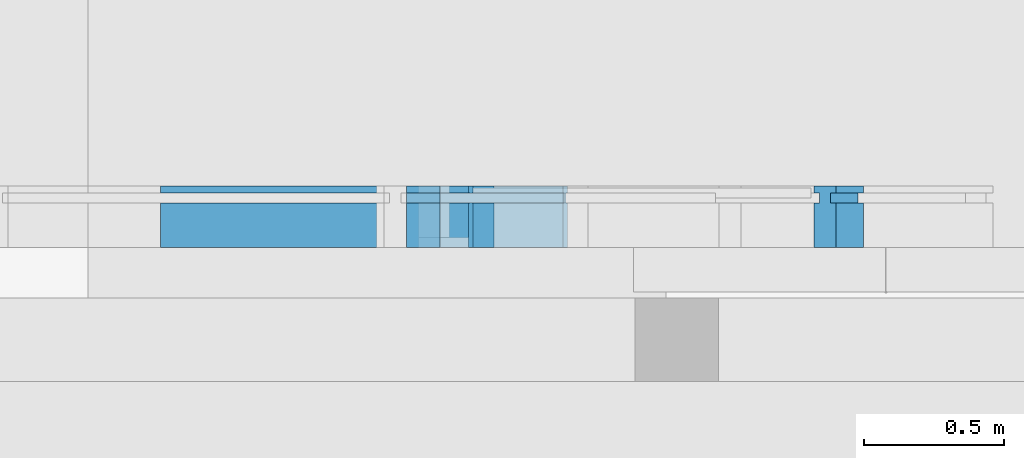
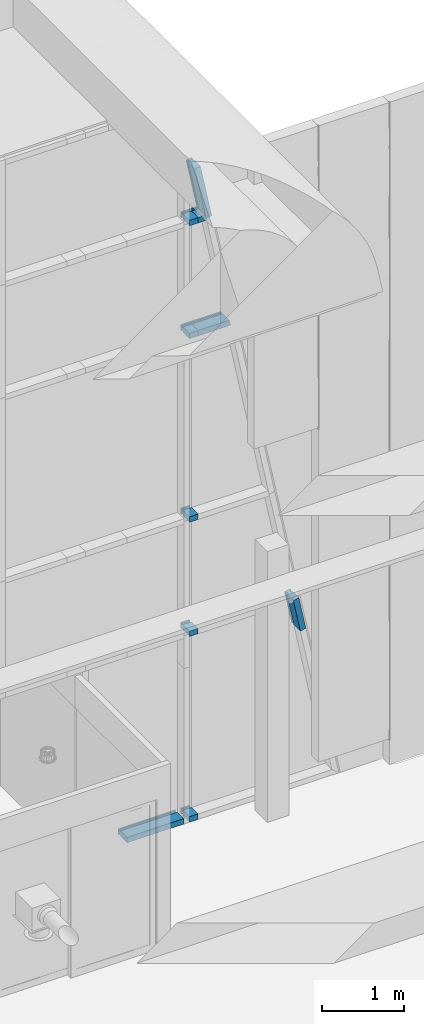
# One storey, part 193 of 302: 10 members, 1 element without a shape of its own.
"""IFC2X3 building model written with IfcOpenShell, lengths in metres."""

from ifc_helpers import new_model, entity, si_unit, converted_unit, derived_unit, direction, frame, origin, place, context, subcontext, project, spatial, polyline, outline, extrude, clip, bounded_halfspace, source, transform, mapped, material, type_object, type_shapes, element, aggregate, save


model = new_model("IFC2X3")

# Units and contexts
model_context = context("Model", 3, precision=1e-05, world=origin(), true_north=direction((6.12303176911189e-17, 1.0)))
body_context = subcontext(model_context, "Body", "Model", "MODEL_VIEW")
ifc_project = project(units=[si_unit("LENGTHUNIT", "METRE"), si_unit("AREAUNIT", "SQUARE_METRE"), si_unit("VOLUMEUNIT", "CUBIC_METRE"), converted_unit("PLANEANGLEUNIT", "DEGREE", entity("IfcRatioMeasure", 0.0174532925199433), si_unit("PLANEANGLEUNIT", "RADIAN"), dimensions=[0, 0, 0, 0, 0, 0, 0]), si_unit("MASSUNIT", "GRAM", prefix="KILO"), derived_unit("MASSDENSITYUNIT", [(si_unit("MASSUNIT", "GRAM", prefix="KILO"), 1), (si_unit("LENGTHUNIT", "METRE"), -3)]), derived_unit("MOMENTOFINERTIAUNIT", [(si_unit("LENGTHUNIT", "METRE"), 4)]), si_unit("TIMEUNIT", "SECOND"), si_unit("FREQUENCYUNIT", "HERTZ"), si_unit("THERMODYNAMICTEMPERATUREUNIT", "DEGREE_CELSIUS"), derived_unit("THERMALTRANSMITTANCEUNIT", [(si_unit("MASSUNIT", "GRAM", prefix="KILO"), 1), (si_unit("THERMODYNAMICTEMPERATUREUNIT", "KELVIN"), -1), (si_unit("TIMEUNIT", "SECOND"), -3)]), derived_unit("VOLUMETRICFLOWRATEUNIT", [(si_unit("LENGTHUNIT", "METRE"), 3), (si_unit("TIMEUNIT", "SECOND"), -1)]), si_unit("ELECTRICCURRENTUNIT", "AMPERE"), si_unit("ELECTRICVOLTAGEUNIT", "VOLT"), si_unit("POWERUNIT", "WATT"), si_unit("FORCEUNIT", "NEWTON", prefix="KILO"), si_unit("ILLUMINANCEUNIT", "LUX"), si_unit("LUMINOUSFLUXUNIT", "LUMEN"), si_unit("LUMINOUSINTENSITYUNIT", "CANDELA"), derived_unit("USERDEFINED", [(si_unit("MASSUNIT", "GRAM", prefix="KILO"), -1), (si_unit("LENGTHUNIT", "METRE"), -2), (si_unit("TIMEUNIT", "SECOND"), 3), (si_unit("LUMINOUSFLUXUNIT", "LUMEN"), 1)]), derived_unit("LINEARVELOCITYUNIT", [(si_unit("LENGTHUNIT", "METRE"), 1), (si_unit("TIMEUNIT", "SECOND"), -1)]), si_unit("PRESSUREUNIT", "PASCAL"), derived_unit("USERDEFINED", [(si_unit("LENGTHUNIT", "METRE"), -2), (si_unit("MASSUNIT", "GRAM", prefix="KILO"), 1), (si_unit("TIMEUNIT", "SECOND"), -2)]), derived_unit("LINEARFORCEUNIT", [(si_unit("MASSUNIT", "GRAM", prefix="KILO"), 1), (si_unit("LENGTHUNIT", "METRE"), 1), (si_unit("TIMEUNIT", "SECOND"), -2), (si_unit("LENGTHUNIT", "METRE"), -1)]), derived_unit("PLANARFORCEUNIT", [(si_unit("MASSUNIT", "GRAM", prefix="KILO"), 1), (si_unit("LENGTHUNIT", "METRE"), 1), (si_unit("TIMEUNIT", "SECOND"), -2), (si_unit("LENGTHUNIT", "METRE"), -2)])], contexts=[model_context])

# Site, building, storey
site_placement = place(None, origin())
site = spatial("IfcSite", under=ifc_project, at=site_placement, Name="Default", CompositionType="ELEMENT")
building_placement = place(site_placement, origin())
building = spatial("IfcBuilding", under=site, at=building_placement, CompositionType="ELEMENT")
storey_placement = place(building_placement, frame((0.0, 0.0, -1.3)))
storey = spatial("IfcBuildingStorey", under=building, at=storey_placement, Name="00_EG", CompositionType="ELEMENT", Elevation=-1.3)

# Curtain wall, members
curtain_wall_type = type_object("IfcCurtainWallType", Name="Fassade:Glasfassade", PredefinedType="NOTDEFINED")
curtain_wall_placement = place(storey_placement, frame((0.0, 0.0, 1.3)))
curtain_wall = element("IfcCurtainWall", 1, at=curtain_wall_placement, inside=storey, type_object=curtain_wall_type, Name="Fassade:Glasfassade", ObjectType="Fassade:Glasfassade")
ifc_material = material(Name="Prepainted_Steel-ArcelorMittal_Construction_HAIRULTRA-35-CORAL-4309-[RAL_3000]")
member_type_1 = type_object("IfcMemberType", Name="Rectangular Mullion:Fassadenrahmen Typ 1", PredefinedType="MULLION", material=ifc_material)
shared_shape_1 = source(origin(), body_context, "Body", "SweptSolid", [
    extrude(outline(polyline([(-0.065, -0.04), (-0.04, -0.04), (-0.04, -0.02), (-0.00499999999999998, -0.02), (-0.00499999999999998, -0.04), (0.155, -0.04), (0.155, 0.04), (-0.00499999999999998, 0.04), (-0.00499999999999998, 0.02), (-0.04, 0.02), (-0.04, 0.04), (-0.065, 0.04), (-0.065, -0.04)])), frame((-0.04, 0.155, -0.499754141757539), z_axis=(0.0, 0.0, 1.0), x_axis=(0.0, -1.0, 0.0)), (0.0, 0.0, 1.0), 0.499754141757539),
])
type_shapes(member_type_1, [shared_shape_1])
member_1_placement = place(storey_placement, frame((-226.789829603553, 45.738088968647, 4.06999999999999), z_axis=(-0.196608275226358, 0.0, 0.980482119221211), x_axis=(0.980482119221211, 0.0, 0.196608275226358)))
member_1 = element("IfcMember", 2, at=member_1_placement, type_object=member_type_1, material=ifc_material, Name="Rectangular Mullion:Fassadenrahmen Typ 1", ObjectType="Rectangular Mullion:Fassadenrahmen Typ 1", context=body_context, shape_type="MappedRepresentation", body=[
    mapped(shared_shape_1, transform((0.0, 0.0, 0.0), scale=1.0)),
])
member_type_2 = type_object("IfcMemberType", Name="Rectangular Mullion:Fassadenrahmen Typ 1", PredefinedType="MULLION", material=ifc_material)
shared_shape_2 = source(origin(), body_context, "Body", "SweptSolid", [
    extrude(outline(polyline([(-0.065, -0.04), (-0.04, -0.04), (-0.04, -0.02), (-0.00499999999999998, -0.02), (-0.00499999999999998, -0.04), (0.155, -0.04), (0.155, 0.04), (-0.00499999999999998, 0.04), (-0.00499999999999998, 0.02), (-0.04, 0.02), (-0.04, 0.04), (-0.065, 0.04), (-0.065, -0.04)])), frame((-0.04, 0.155, -0.810339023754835), z_axis=(0.0, 0.0, 1.0), x_axis=(0.0, -1.0, 0.0)), (0.0, 0.0, 1.0), 0.810339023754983),
])
type_shapes(member_type_2, [shared_shape_2])
member_2_placement = place(storey_placement, frame((-228.174338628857, 45.738088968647, 10.9745229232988), z_axis=(-0.196608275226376, 0.0, 0.980482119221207), x_axis=(0.980482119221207, 0.0, 0.196608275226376)))
member_2 = element("IfcMember", 3, at=member_2_placement, type_object=member_type_2, material=ifc_material, Name="Rectangular Mullion:Fassadenrahmen Typ 1", ObjectType="Rectangular Mullion:Fassadenrahmen Typ 1", context=body_context, shape_type="MappedRepresentation", body=[
    mapped(shared_shape_2, transform((0.0, 0.0, 0.0), scale=1.0)),
])
member_type_3 = type_object("IfcMemberType", Name="Rectangular Mullion:Fassadenrahmen Typ 1", PredefinedType="MULLION", material=ifc_material)
shared_shape_3 = source(origin(), body_context, "Body", "SweptSolid", [
    extrude(outline(polyline([(-0.0649999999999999, -0.04), (-0.04, -0.04), (-0.04, -0.02), (-0.00499999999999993, -0.02), (-0.00499999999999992, -0.04), (0.155, -0.0399999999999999), (0.155, 0.0400000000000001), (-0.00499999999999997, 0.04), (-0.00499999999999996, 0.02), (-0.04, 0.02), (-0.04, 0.04), (-0.065, 0.0399999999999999), (-0.0649999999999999, -0.04)])), frame((-0.04, 0.155, -0.800000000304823), z_axis=(0.0, 0.0, 1.0), x_axis=(0.0, -1.0, 0.0)), (0.0, 0.0, 1.0), 0.800000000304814),
])
type_shapes(member_type_3, [shared_shape_3])
member_3_placement = place(storey_placement, frame((-228.4079697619, 45.738088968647, 1.27), z_axis=(1.0, 0.0, 0.0), x_axis=(0.0, 0.0, -1.0)))
member_3 = element("IfcMember", 4, at=member_3_placement, type_object=member_type_3, material=ifc_material, Name="Rectangular Mullion:Fassadenrahmen Typ 1", ObjectType="Rectangular Mullion:Fassadenrahmen Typ 1", context=body_context, shape_type="MappedRepresentation", body=[
    mapped(shared_shape_3, transform((0.0, 0.0, 0.0), scale=1.0)),
])
member_type_4 = type_object("IfcMemberType", Name="Rectangular Mullion:Fassadenrahmen Typ 1", PredefinedType="MULLION", material=ifc_material)
shared_shape_4 = source(origin(), body_context, "Body", "SweptSolid", [
    extrude(outline(polyline([(-0.065, -0.04), (-0.04, -0.04), (-0.04, -0.02), (-0.00499999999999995, -0.02), (-0.00499999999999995, -0.04), (0.155, -0.04), (0.155, 0.04), (-0.00499999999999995, 0.04), (-0.00499999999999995, 0.02), (-0.04, 0.02), (-0.04, 0.04), (-0.065, 0.04), (-0.065, -0.04)])), frame((0.0, 0.155, -0.119999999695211), z_axis=(0.0, 0.0, 1.0), x_axis=(0.0, -1.0, 0.0)), (0.0, 0.0, 1.0), 0.119999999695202),
])
type_shapes(member_type_4, [shared_shape_4])
member_4_placement = place(storey_placement, frame((-228.3279697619, 45.738088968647, 10.18), z_axis=(-1.0, 0.0, 0.0), x_axis=(0.0, 0.0, 1.0)))
member_4 = element("IfcMember", 5, at=member_4_placement, type_object=member_type_4, material=ifc_material, Name="Rectangular Mullion:Fassadenrahmen Typ 1", ObjectType="Rectangular Mullion:Fassadenrahmen Typ 1", context=body_context, shape_type="MappedRepresentation", body=[
    mapped(shared_shape_4, transform((0.0, 0.0, 0.0), scale=1.0)),
])
member_5_placement = place(storey_placement, frame((-228.3279697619, 45.738088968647, 8.49999999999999), z_axis=(-1.0, 0.0, 0.0), x_axis=(0.0, 0.0, 1.0)))
member_5 = element("IfcMember", 6, at=member_5_placement, type_object=member_type_4, material=ifc_material, Name="Rectangular Mullion:Fassadenrahmen Typ 1", ObjectType="Rectangular Mullion:Fassadenrahmen Typ 1", context=body_context, shape_type="MappedRepresentation", body=[
    mapped(shared_shape_4, transform((0.0, 0.0, 0.0), scale=1.0)),
])
member_6_placement = place(storey_placement, frame((-228.3279697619, 45.738088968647, 5.77), z_axis=(-1.0, 0.0, 0.0), x_axis=(0.0, 0.0, 1.0)))
member_6 = element("IfcMember", 7, at=member_6_placement, type_object=member_type_4, material=ifc_material, Name="Rectangular Mullion:Fassadenrahmen Typ 1", ObjectType="Rectangular Mullion:Fassadenrahmen Typ 1", context=body_context, shape_type="MappedRepresentation", body=[
    mapped(shared_shape_4, transform((0.0, 0.0, 0.0), scale=1.0)),
])
member_7_placement = place(storey_placement, frame((-228.3279697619, 45.738088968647, 4.06999999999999), z_axis=(-1.0, 0.0, 0.0), x_axis=(0.0, 0.0, 1.0)))
member_7 = element("IfcMember", 8, at=member_7_placement, type_object=member_type_4, material=ifc_material, Name="Rectangular Mullion:Fassadenrahmen Typ 1", ObjectType="Rectangular Mullion:Fassadenrahmen Typ 1", context=body_context, shape_type="MappedRepresentation", body=[
    mapped(shared_shape_4, transform((0.0, 0.0, 0.0), scale=1.0)),
])
member_type_5 = type_object("IfcMemberType", Name="Rectangular Mullion:Fassadenrahmen Typ 1", PredefinedType="MULLION", material=ifc_material)
shared_shape_5 = source(origin(), body_context, "Body", "SweptSolid", [
    extrude(outline(polyline([(-0.0649999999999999, -0.04), (-0.04, -0.04), (-0.04, -0.02), (-0.00499999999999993, -0.02), (-0.00499999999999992, -0.04), (0.155, -0.0399999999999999), (0.155, 0.0400000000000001), (-0.00499999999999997, 0.04), (-0.00499999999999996, 0.02), (-0.04, 0.02), (-0.04, 0.04), (-0.065, 0.0399999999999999), (-0.0649999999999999, -0.04)])), frame((-0.04, 0.155, -0.119999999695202), z_axis=(0.0, 0.0, 1.0), x_axis=(0.0, -1.0, 0.0)), (0.0, 0.0, 1.0), 0.119999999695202),
])
type_shapes(member_type_5, [shared_shape_5])
member_8_placement = place(storey_placement, frame((-228.207969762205, 45.738088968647, 1.27), z_axis=(1.0, 0.0, 0.0), x_axis=(0.0, 0.0, -1.0)))
member_8 = element("IfcMember", 9, at=member_8_placement, type_object=member_type_5, material=ifc_material, Name="Rectangular Mullion:Fassadenrahmen Typ 1", ObjectType="Rectangular Mullion:Fassadenrahmen Typ 1", context=body_context, shape_type="MappedRepresentation", body=[
    mapped(shared_shape_5, transform((0.0, 0.0, 0.0), scale=1.0)),
])
member_type_6 = type_object("IfcMemberType", Name="Rectangular Mullion:Fassadenrahmen Typ 1", PredefinedType="MULLION", material=ifc_material)
shared_shape_6 = source(origin(), body_context, "Body", "Clipping", [
    clip(clip(extrude(outline(polyline([(-0.065, -0.04), (-0.04, -0.04), (-0.04, -0.02), (-0.00499999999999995, -0.02), (-0.00499999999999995, -0.04), (0.155, -0.04), (0.155, 0.04), (-0.00499999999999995, 0.04), (-0.00499999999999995, 0.02), (-0.04, 0.02), (-0.04, 0.04), (-0.065, 0.04), (-0.065, -0.04)])), frame((0.0, 0.155, -0.456255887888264), z_axis=(0.0, 0.0, 1.0), x_axis=(0.0, -1.0, 0.0)), (0.0, 0.0, 1.0), 0.456255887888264), bounded_halfspace(frame((-0.0157286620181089, 91.44, -0.451388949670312), z_axis=(0.196608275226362, 0.0, -0.98048211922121), x_axis=(-0.98048211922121, 0.0, -0.196608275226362)), False, frame((0.0, 0.155, -0.456255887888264), z_axis=(0.0, 0.0, 1.0), x_axis=(0.0, -1.0, 0.0)), polyline([(0.155, -0.0157286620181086), (0.155, -0.04), (-0.00499999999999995, -0.04), (-0.00499999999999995, -0.02), (-0.04, -0.02), (-0.04, -0.04), (-0.065, -0.04), (-0.0650000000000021, -0.0157286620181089), (0.155, -0.0157286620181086)]))), bounded_halfspace(frame((1.6642713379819, 91.44, -0.114511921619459), z_axis=(0.196608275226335, 0.0, -0.980482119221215), x_axis=(-0.980482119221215, 0.0, -0.196608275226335)), False, frame((0.0, 0.155, -0.456255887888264), z_axis=(0.0, 0.0, 1.0), x_axis=(0.0, -1.0, 0.0)), polyline([(0.155, 0.04), (0.155, -0.0157286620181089), (-0.065, -0.0157286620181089), (-0.065, 0.04), (-0.04, 0.04), (-0.04, 0.02), (-0.00499999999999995, 0.02), (-0.00499999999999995, 0.04), (0.155, 0.04)]))),
])
type_shapes(member_type_6, [shared_shape_6])
member_9_placement = place(storey_placement, frame((-228.207969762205, 45.738088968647, 8.49999999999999), z_axis=(-1.0, 0.0, 0.0), x_axis=(0.0, 0.0, 1.0)))
member_9 = element("IfcMember", 10, at=member_9_placement, type_object=member_type_6, material=ifc_material, Name="Rectangular Mullion:Fassadenrahmen Typ 1", ObjectType="Rectangular Mullion:Fassadenrahmen Typ 1", context=body_context, shape_type="MappedRepresentation", body=[
    mapped(shared_shape_6, transform((0.0, 0.0, 0.0), scale=1.0)),
])
member_type_7 = type_object("IfcMemberType", Name="Rectangular Mullion:Fassadenrahmen Typ 1", PredefinedType="MULLION", material=ifc_material)
shared_shape_7 = source(origin(), body_context, "Body", "Clipping", [
    clip(clip(extrude(outline(polyline([(-0.065, -0.04), (-0.04, -0.04), (-0.04, -0.02), (-0.00499999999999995, -0.02), (-0.00499999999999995, -0.04), (0.155, -0.04), (0.155, 0.04), (-0.00499999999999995, 0.04), (-0.00499999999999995, 0.02), (-0.04, 0.02), (-0.04, 0.04), (-0.065, 0.04), (-0.065, -0.04)])), frame((0.0, 0.155, -0.119378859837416), z_axis=(0.0, 0.0, 1.0), x_axis=(0.0, -1.0, 0.0)), (0.0, 0.0, 1.0), 0.119378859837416), bounded_halfspace(frame((-0.0157286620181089, 91.44, -0.114511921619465), z_axis=(0.196608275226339, 0.0, -0.980482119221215), x_axis=(-0.980482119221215, 0.0, -0.196608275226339)), False, frame((0.0, 0.155, -0.119378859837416), z_axis=(0.0, 0.0, 1.0), x_axis=(0.0, -1.0, 0.0)), polyline([(0.155, -0.0157286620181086), (0.155, -0.04), (-0.00499999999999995, -0.04), (-0.00499999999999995, -0.02), (-0.04, -0.02), (-0.04, -0.04), (-0.065, -0.04), (-0.0650000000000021, -0.0157286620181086), (0.155, -0.0157286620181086)]))), bounded_halfspace(frame((0.778794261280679, 91.44, 0.0448074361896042), z_axis=(0.196608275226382, 0.0, -0.980482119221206), x_axis=(-0.980482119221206, 0.0, -0.196608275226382)), False, frame((0.0, 0.155, -0.119378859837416), z_axis=(0.0, 0.0, 1.0), x_axis=(0.0, -1.0, 0.0)), polyline([(0.155, 0.04), (0.155, -0.0157286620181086), (-0.065, -0.0157286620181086), (-0.065, 0.04), (-0.04, 0.04), (-0.04, 0.02), (-0.00499999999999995, 0.02), (-0.00499999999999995, 0.04), (0.155, 0.04)]))),
])
type_shapes(member_type_7, [shared_shape_7])
member_10_placement = place(storey_placement, frame((-228.207969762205, 45.738088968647, 10.18), z_axis=(-1.0, 0.0, 0.0), x_axis=(0.0, 0.0, 1.0)))
member_10 = element("IfcMember", 11, at=member_10_placement, type_object=member_type_7, material=ifc_material, Name="Rectangular Mullion:Fassadenrahmen Typ 1", ObjectType="Rectangular Mullion:Fassadenrahmen Typ 1", context=body_context, shape_type="MappedRepresentation", body=[
    mapped(shared_shape_7, transform((0.0, 0.0, 0.0), scale=1.0)),
])
aggregate(curtain_wall, [member_1, member_2, member_3, member_4, member_5, member_6, member_7, member_8, member_9, member_10])

save(model, "model.ifc")
